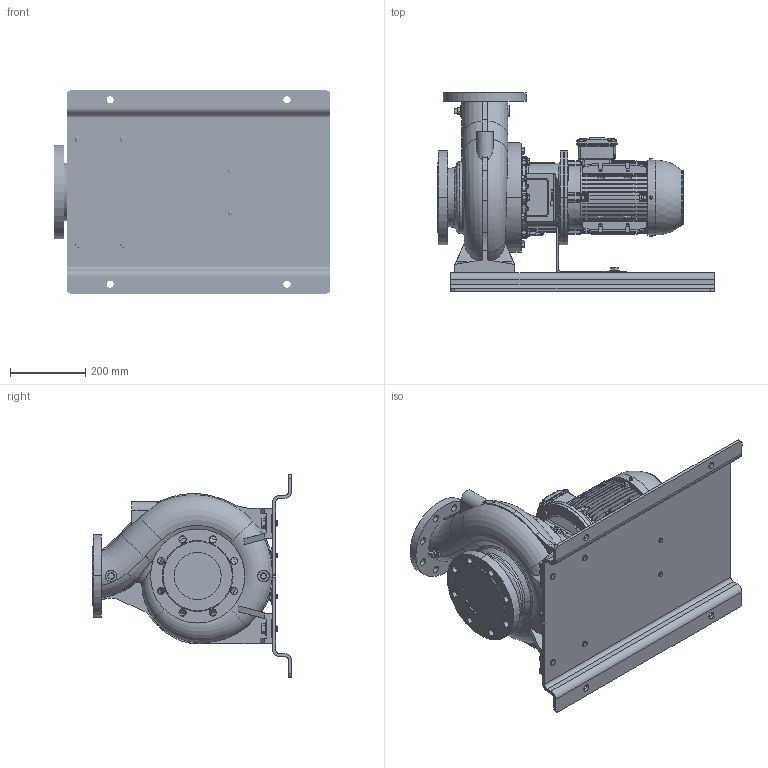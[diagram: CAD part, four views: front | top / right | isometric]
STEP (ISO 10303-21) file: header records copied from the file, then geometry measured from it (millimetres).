
FILE_DESCRIPTION (( 'STEP AP214' ), '1' );
FILE_NAME ('GSD4 100-200_3.0_(100L)_W21_BP.STEP', '2026-05-08T06:21:44', ( '' ), ( '' ), 'SwSTEP 2.0', 'SolidWorks 2024', '' );
FILE_SCHEMA (( 'AUTOMOTIVE_DESIGN' ));
Length unit declared in the file: millimetre
Products named in the file (9): Parametric bolt_SFT-A351B; 100-200-100L_ﾃﾞﾌｫﾙﾄ; CGSD1-4173; GSD4 100-200_3.0_(100L)_W21_BP; 100L ALIE3_W21T_B5; Parametric Flat Washer_M16; Parametric bolt_SFT-A295B; Parametric Flat Washer_M12; N6S6 GSDA-661 F1-1832931-00
Assembly tree (16 placements, depth 2):
  GSD4 100-200_3.0_(100L)_W21_BP
    100-200-100L_ﾃﾞﾌｫﾙﾄ
    100L ALIE3_W21T_B5
    N6S6 GSDA-661 F1-1832931-00
    CGSD1-4173
    Parametric bolt_SFT-A295B  x2
    Parametric bolt_SFT-A351B  x4
    Parametric Flat Washer_M16  x4
    Parametric Flat Washer_M12  x2
Bounding box: 735 x 530 x 540 mm (x, y, z)
Volume: 31985165.2 mm3; surface area: 2485886.5 mm2
Topology: 19 solids, 19 shells, 3662 faces, 9476 edges, 6090 vertices
Faces by surface type: plane 2086, cylinder 868, bspline 252, torus 245, cone 197, sphere 14
Entity records: 185089 total; most frequent: CARTESIAN_POINT 103063, ORIENTED_EDGE 17738, DIRECTION 15794, EDGE_CURVE 8869, VERTEX_POINT 5710, LINE 5476, VECTOR 5476, AXIS2_PLACEMENT_3D 5159
